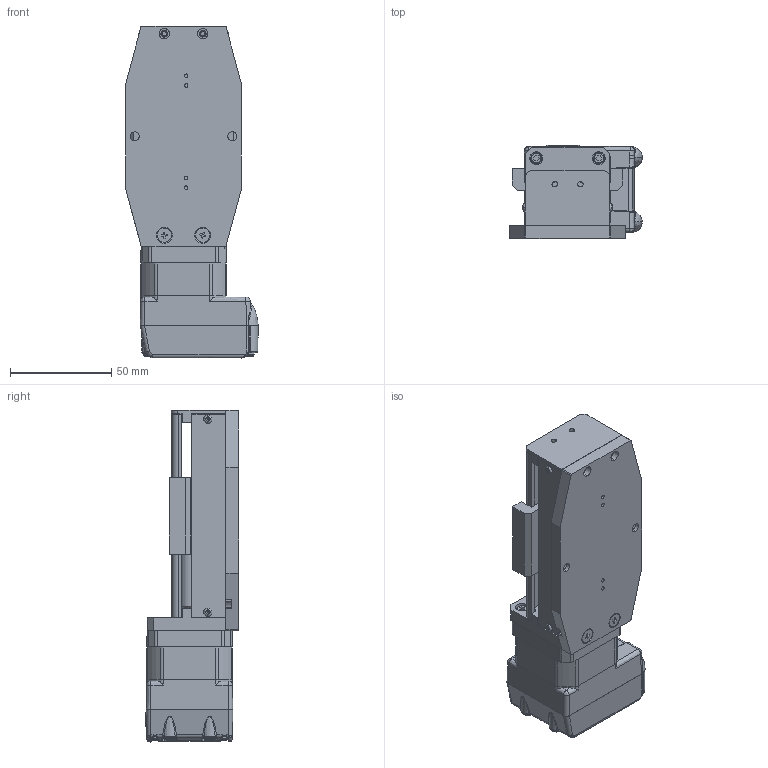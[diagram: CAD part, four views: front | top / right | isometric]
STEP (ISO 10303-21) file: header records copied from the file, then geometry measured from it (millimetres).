
FILE_DESCRIPTION (( 'STEP AP214' ), '1' );
FILE_NAME ('L3506.050-IMA_v2_20180817.STEP', '2018-08-22T11:33:12', ( '' ), ( '' ), 'SwSTEP 2.0', 'SolidWorks 2017', '' );
FILE_SCHEMA (( 'AUTOMOTIVE_DESIGN' ));
Length unit declared in the file: millimetre
Products named in the file (1): L3506.050-IMA_v2_20180817
Bounding box: 65.52 x 46.1 x 164.29 mm (x, y, z)
Surface area: 91659.3 mm2 (no closed solid volume)
Topology: 0 solids, 26 shells, 1321 faces, 3659 edges, 2419 vertices
Faces by surface type: plane 520, cylinder 380, bspline 275, cone 111, torus 35
Entity records: 76188 total; most frequent: CARTESIAN_POINT 44860, ORIENTED_EDGE 7197, DIRECTION 5143, EDGE_CURVE 3610, VERTEX_POINT 2419, AXIS2_PLACEMENT_3D 1795, VECTOR 1553, LINE 1553
